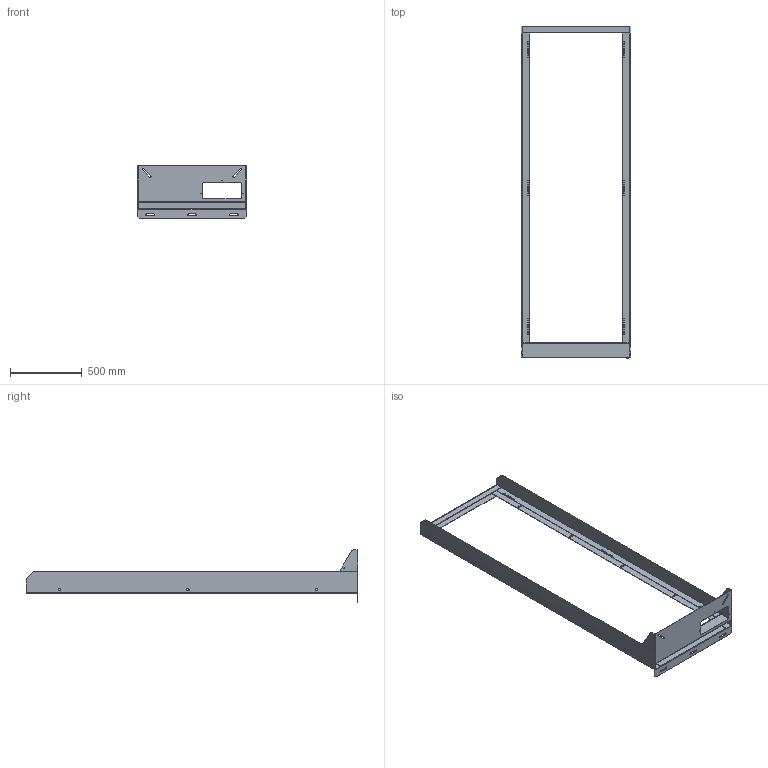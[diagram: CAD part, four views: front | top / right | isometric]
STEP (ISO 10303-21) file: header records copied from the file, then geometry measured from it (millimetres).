
FILE_DESCRIPTION (( 'STEP AP203' ), '1' );
FILE_NAME ('62468.STEP', '2025-03-17T16:30:36', ( '' ), ( '' ), 'SwSTEP 2.0', 'SolidWorks 2020', '' );
FILE_SCHEMA (( 'CONFIG_CONTROL_DESIGN' ));
Length unit declared in the file: inch
Products named in the file (8): 89251159_WITH HELLCAT; 89251151; 89251153; 89251150; 89251052; 62468; 89251051; 89251053
Assembly tree (8 placements, depth 3):
  62468
    89251159_WITH HELLCAT
      89251051
      89251150
      89251153  x2
      89251052
      89251053
      89251151
Bounding box: 759.6 x 2312.67 x 368.3 mm (x, y, z)
Volume: 5707681.4 mm3; surface area: 3607969.3 mm2
Topology: 7 solids, 7 shells, 524 faces, 1428 edges, 902 vertices
Faces by surface type: plane 316, cylinder 208
Entity records: 14671 total; most frequent: DIRECTION 2417, CARTESIAN_POINT 2370, ORIENTED_EDGE 2362, EDGE_CURVE 1181, LINE 831, VECTOR 831, AXIS2_PLACEMENT_3D 793, VERTEX_POINT 746
